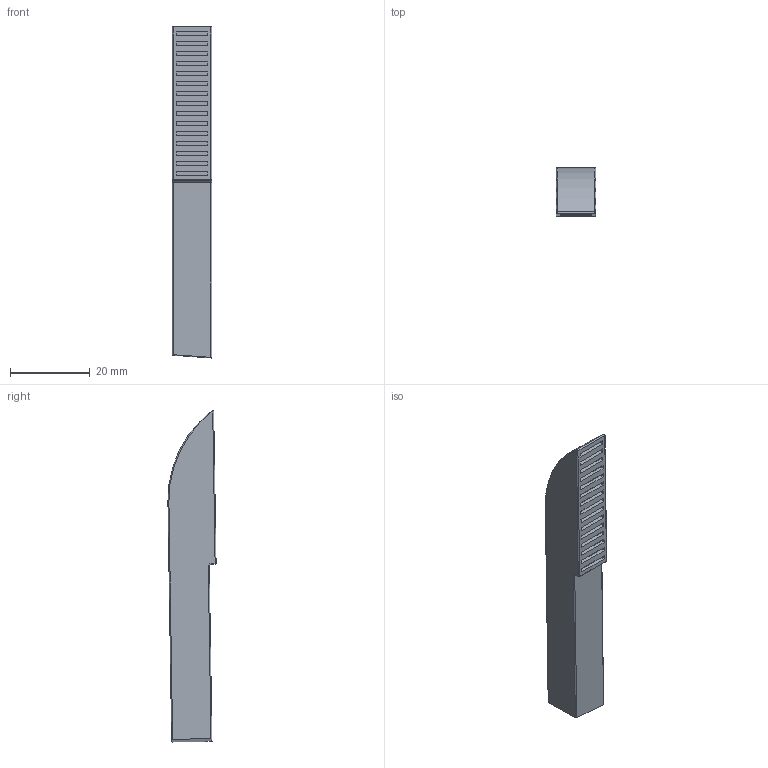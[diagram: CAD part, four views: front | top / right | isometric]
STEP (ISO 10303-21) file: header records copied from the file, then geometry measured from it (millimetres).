
FILE_DESCRIPTION(/* description */ ('','CAx-IF Rec.Pracs.---Representation and Presentation of Product Manufacturing Information (PMI)---4.0---2014-10-13'),/* implementation_level */ '2;1');
FILE_NAME(/* name */ '20vospertallvent.step',/* time_stamp */ '2025-03-24T17:29:06+11:00',/* author */ (''),/* organization */ (''),/* preprocessor_version */ 'ST-DEVELOPER v20',/* originating_system */ 'Autodesk Translation Framework v13.20.0.188',/* authorisation */ '');
FILE_SCHEMA (('AP242_MANAGED_MODEL_BASED_3D_ENGINEERING_MIM_LF { 1 0 10303 442 1 1 4 }'));
Length unit declared in the file: millimetre
Products named in the file (1): 20scaleVosperDeckStuff
Bounding box: 10 x 12.08 x 83.21 mm (x, y, z)
Volume: 8113.3 mm3; surface area: 3689.2 mm2
Topology: 1 solids, 1 shells, 102 faces, 237 edges, 152 vertices
Faces by surface type: plane 81, cylinder 12, sphere 4, torus 4, bspline 1
Entity records: 3026 total; most frequent: CARTESIAN_POINT 658, ORIENTED_EDGE 474, DIRECTION 459, EDGE_CURVE 237, LINE 203, VECTOR 203, VERTEX_POINT 152, AXIS2_PLACEMENT_3D 128
